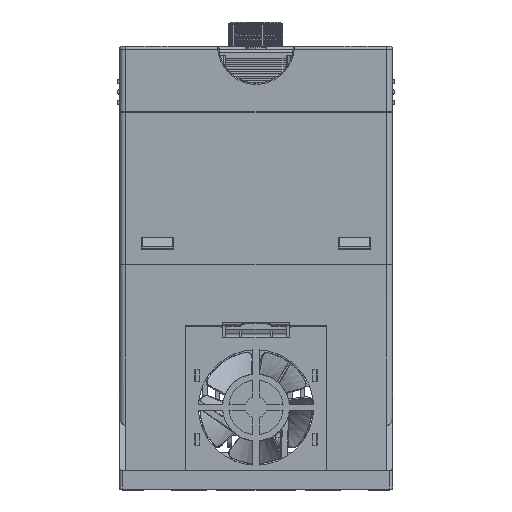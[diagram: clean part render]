
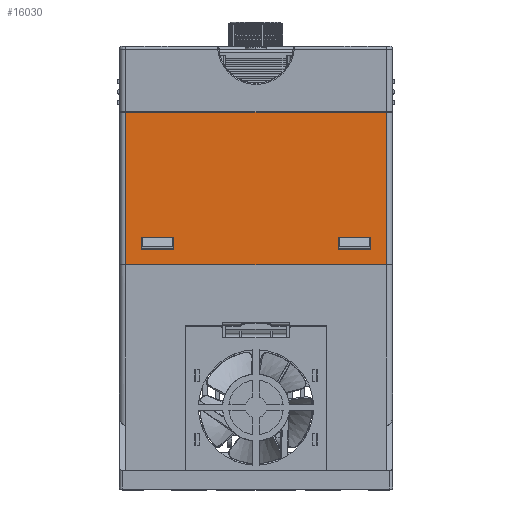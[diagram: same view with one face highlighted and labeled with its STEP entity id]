
A CAD part, top view. The second image highlights one B-rep face of the part: STEP entity #16030.
In plain terms, the highlighted planar face has unit normal (0, 0, 1).
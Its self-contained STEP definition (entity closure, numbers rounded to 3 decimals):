
#2889=DIRECTION('',(1.,0.,0.));
#2890=VECTOR('',#2889,86.);
#2891=CARTESIAN_POINT('',(-43.,90.,81.5));
#2892=LINE('',#2891,#2890);
#4220=DIRECTION('',(1.,0.,0.));
#4221=VECTOR('',#4220,86.);
#4222=CARTESIAN_POINT('',(-43.,140.2,81.5));
#4223=LINE('',#4222,#4221);
#4224=DIRECTION('',(0.,-1.,0.));
#4225=VECTOR('',#4224,4.105);
#4226=CARTESIAN_POINT('',(27.198,99.052,81.5));
#4227=LINE('',#4226,#4225);
#4228=DIRECTION('',(1.,0.,0.));
#4229=VECTOR('',#4228,10.605);
#4230=CARTESIAN_POINT('',(27.198,94.948,81.5));
#4231=LINE('',#4230,#4229);
#4232=DIRECTION('',(0.,1.,0.));
#4233=VECTOR('',#4232,4.105);
#4234=CARTESIAN_POINT('',(37.802,94.948,81.5));
#4235=LINE('',#4234,#4233);
#4236=DIRECTION('',(-1.,0.,0.));
#4237=VECTOR('',#4236,10.605);
#4238=CARTESIAN_POINT('',(37.802,99.052,81.5));
#4239=LINE('',#4238,#4237);
#4240=DIRECTION('',(-1.,0.,0.));
#4241=VECTOR('',#4240,10.605);
#4242=CARTESIAN_POINT('',(-27.198,99.052,81.5));
#4243=LINE('',#4242,#4241);
#4244=DIRECTION('',(0.,-1.,0.));
#4245=VECTOR('',#4244,4.105);
#4246=CARTESIAN_POINT('',(-37.802,99.052,81.5));
#4247=LINE('',#4246,#4245);
#4248=DIRECTION('',(1.,0.,0.));
#4249=VECTOR('',#4248,10.605);
#4250=CARTESIAN_POINT('',(-37.802,94.948,81.5));
#4251=LINE('',#4250,#4249);
#4252=DIRECTION('',(0.,1.,0.));
#4253=VECTOR('',#4252,4.105);
#4254=CARTESIAN_POINT('',(-27.198,94.948,81.5));
#4255=LINE('',#4254,#4253);
#4260=DIRECTION('',(0.,-1.,0.));
#4261=VECTOR('',#4260,50.2);
#4262=CARTESIAN_POINT('',(-43.,140.2,81.5));
#4263=LINE('',#4262,#4261);
#4264=DIRECTION('',(0.,1.,0.));
#4265=VECTOR('',#4264,50.2);
#4266=CARTESIAN_POINT('',(43.,90.,81.5));
#4267=LINE('',#4266,#4265);
#9458=CARTESIAN_POINT('',(43.,140.2,81.5));
#9459=VERTEX_POINT('',#9458);
#9460=CARTESIAN_POINT('',(-43.,140.2,81.5));
#9461=VERTEX_POINT('',#9460);
#9817=CARTESIAN_POINT('',(-43.,90.,81.5));
#9818=VERTEX_POINT('',#9817);
#9819=CARTESIAN_POINT('',(43.,90.,81.5));
#9820=VERTEX_POINT('',#9819);
#10195=CARTESIAN_POINT('',(-37.802,99.052,81.5));
#10197=VERTEX_POINT('',#10195);
#10199=CARTESIAN_POINT('',(-37.802,94.948,81.5));
#10200=VERTEX_POINT('',#10199);
#10203=CARTESIAN_POINT('',(-27.198,99.052,81.5));
#10204=VERTEX_POINT('',#10203);
#10208=CARTESIAN_POINT('',(-27.198,94.948,81.5));
#10209=VERTEX_POINT('',#10208);
#10221=CARTESIAN_POINT('',(27.198,99.052,81.5));
#10223=VERTEX_POINT('',#10221);
#10225=CARTESIAN_POINT('',(27.198,94.948,81.5));
#10226=VERTEX_POINT('',#10225);
#10229=CARTESIAN_POINT('',(37.802,99.052,81.5));
#10230=VERTEX_POINT('',#10229);
#10234=CARTESIAN_POINT('',(37.802,94.948,81.5));
#10235=VERTEX_POINT('',#10234);
#16003=CARTESIAN_POINT('',(-45.,2.,81.5));
#16004=DIRECTION('',(0.,0.,1.));
#16005=DIRECTION('',(1.,0.,0.));
#16006=AXIS2_PLACEMENT_3D('',#16003,#16004,#16005);
#16007=PLANE('',#16006);
#16009=ORIENTED_EDGE('',*,*,#16008,.F.);
#16010=ORIENTED_EDGE('',*,*,#12758,.T.);
#16012=ORIENTED_EDGE('',*,*,#16011,.F.);
#16013=ORIENTED_EDGE('',*,*,#14182,.F.);
#16014=EDGE_LOOP('',(#16009,#16010,#16012,#16013));
#16015=FACE_OUTER_BOUND('',#16014,.F.);
#16016=ORIENTED_EDGE('',*,*,#15630,.T.);
#16018=ORIENTED_EDGE('',*,*,#16017,.T.);
#16019=ORIENTED_EDGE('',*,*,#15676,.T.);
#16020=ORIENTED_EDGE('',*,*,#15643,.T.);
#16021=EDGE_LOOP('',(#16016,#16018,#16019,#16020));
#16022=FACE_BOUND('',#16021,.F.);
#16023=ORIENTED_EDGE('',*,*,#15503,.T.);
#16024=ORIENTED_EDGE('',*,*,#15490,.T.);
#16026=ORIENTED_EDGE('',*,*,#16025,.T.);
#16027=ORIENTED_EDGE('',*,*,#15536,.T.);
#16028=EDGE_LOOP('',(#16023,#16024,#16026,#16027));
#16029=FACE_BOUND('',#16028,.F.);
#12758=EDGE_CURVE('',#9461,#9459,#4223,.T.);
#14182=EDGE_CURVE('',#9818,#9820,#2892,.T.);
#15490=EDGE_CURVE('',#10197,#10200,#4247,.T.);
#15503=EDGE_CURVE('',#10204,#10197,#4243,.T.);
#15536=EDGE_CURVE('',#10209,#10204,#4255,.T.);
#15630=EDGE_CURVE('',#10223,#10226,#4227,.T.);
#15643=EDGE_CURVE('',#10230,#10223,#4239,.T.);
#15676=EDGE_CURVE('',#10235,#10230,#4235,.T.);
#16008=EDGE_CURVE('',#9461,#9818,#4263,.T.);
#16011=EDGE_CURVE('',#9820,#9459,#4267,.T.);
#16017=EDGE_CURVE('',#10226,#10235,#4231,.T.);
#16025=EDGE_CURVE('',#10200,#10209,#4251,.T.);
#16030=ADVANCED_FACE('',(#16015,#16022,#16029),#16007,.T.);
